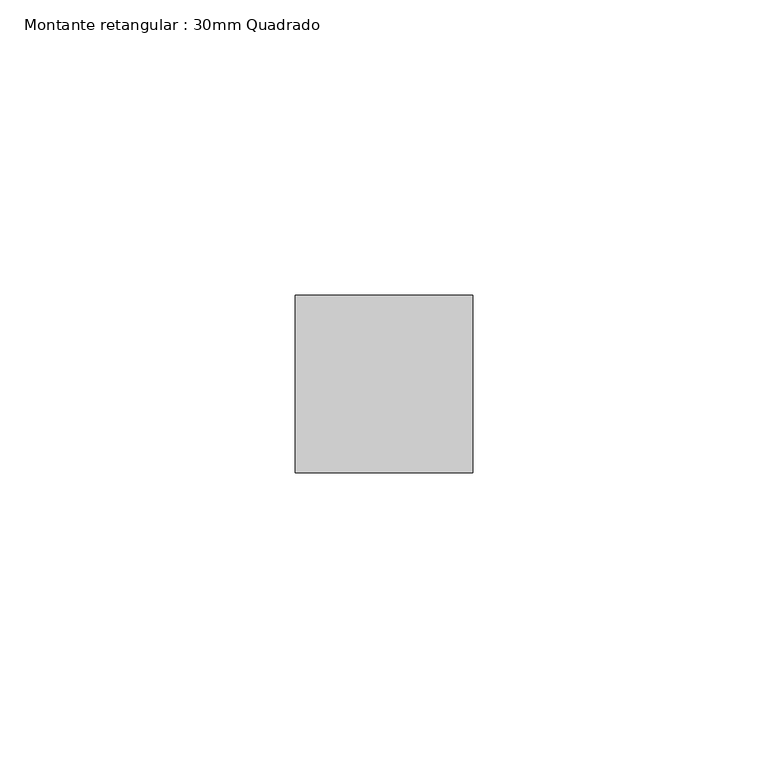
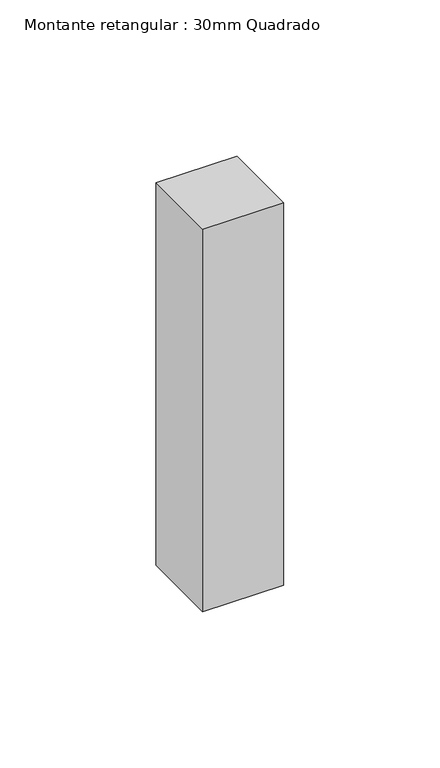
"""IFC4 building model written with IfcOpenShell, lengths in millimetres: member geometry, Montante retangular : 30mm Quadrado."""

from ifc_helpers import new_model, si_unit, frame, origin, place, context, project, spatial, polyline, outline, extrude, source, transform, mapped, element, save


def montante_retangular_30mm_quadrado_2f76d517(model_context):
    return source(origin(), model_context, "Body", "SweptSolid", [
        extrude(outline(polyline([(15.0, 15.0), (15.0, -15.0), (-15.0, -15.0), (-15.0, 15.0), (15.0, 15.0)])), frame((0.0, 0.0, -149.6299477), z_axis=(0.0, 0.0, 1.0), x_axis=(1.0, 0.0, 0.0)), (0.0, 0.0, 1.0), 149.6299477),
    ])


if __name__ == "__main__":
    model = new_model("IFC4")
    model_context = context("Model", 3, world=origin())
    ifc_project = project(units=[si_unit("LENGTHUNIT", "METRE", prefix="MILLI")], contexts=[model_context])
    site = spatial("IfcSite", under=ifc_project)
    building = spatial("IfcBuilding", under=site)
    placement = place(None, origin())
    montante_retangular_30mm_quadrado_shape = montante_retangular_30mm_quadrado_2f76d517(model_context)
    element("IfcMember", 1, ObjectType="Montante retangular : 30mm Quadrado", at=placement, inside=building, context=model_context, shape_type="MappedRepresentation", body=[
        mapped(montante_retangular_30mm_quadrado_shape, transform((0.0, 0.0, 0.0), x_axis=(1.0, 0.0, 0.0), y_axis=(0.0, 1.0, 0.0), z_axis=(0.0, 0.0, 1.0))),
    ])
    save(model, "model.ifc")
